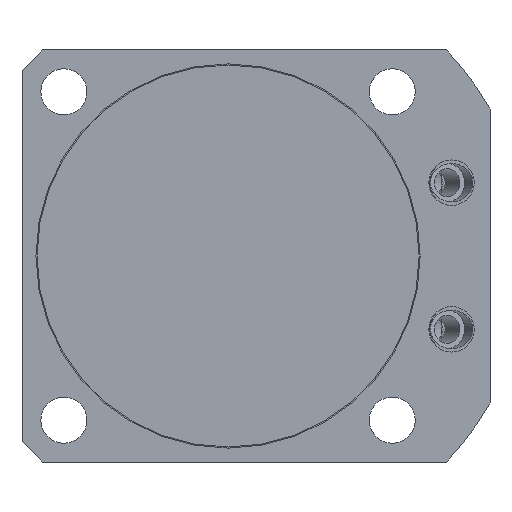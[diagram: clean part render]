
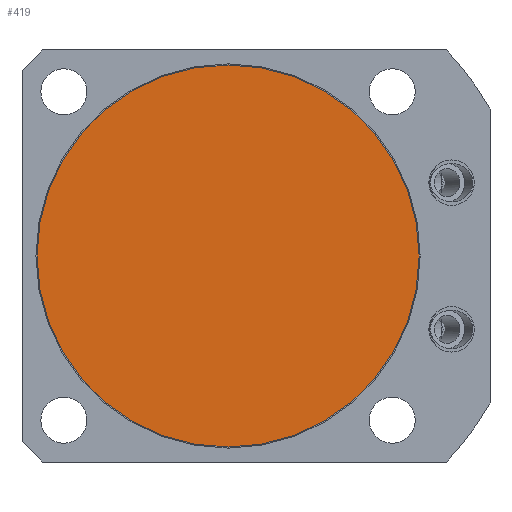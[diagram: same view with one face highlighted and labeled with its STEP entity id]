
A CAD part, front view. The second image highlights one B-rep face of the part: STEP entity #419.
In plain terms, the highlighted planar face has unit normal (0, -1, 0).
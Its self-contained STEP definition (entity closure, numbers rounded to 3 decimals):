
#419 = ADVANCED_FACE( '', ( #929 ), #930, .T. );
#929 = FACE_OUTER_BOUND( '', #1982, .T. );
#930 = PLANE( '', #1983 );
#1982 = EDGE_LOOP( '', ( #3192 ) );
#1983 = AXIS2_PLACEMENT_3D( '', #3193, #3194, #3195 );
#3192 = ORIENTED_EDGE( '', *, *, #6496, .T. );
#3193 = CARTESIAN_POINT( '', ( 0., -70., 0. ) );
#3194 = DIRECTION( '', ( 0., -1., 0. ) );
#3195 = DIRECTION( '', ( 1., 0., 0. ) );
#6496 = EDGE_CURVE( '', #7654, #7654, #7655, .T. );
#7654 = VERTEX_POINT( '', #9598 );
#7655 = CIRCLE( '', #9599, 27.35 );
#9598 = CARTESIAN_POINT( '', ( -27.35, -70., 0. ) );
#9599 = AXIS2_PLACEMENT_3D( '', #12083, #12084, #12085 );
#12083 = CARTESIAN_POINT( '', ( 0., -70., 0. ) );
#12084 = DIRECTION( '', ( 0., -1., 0. ) );
#12085 = DIRECTION( '', ( -1., 0., 0. ) );
